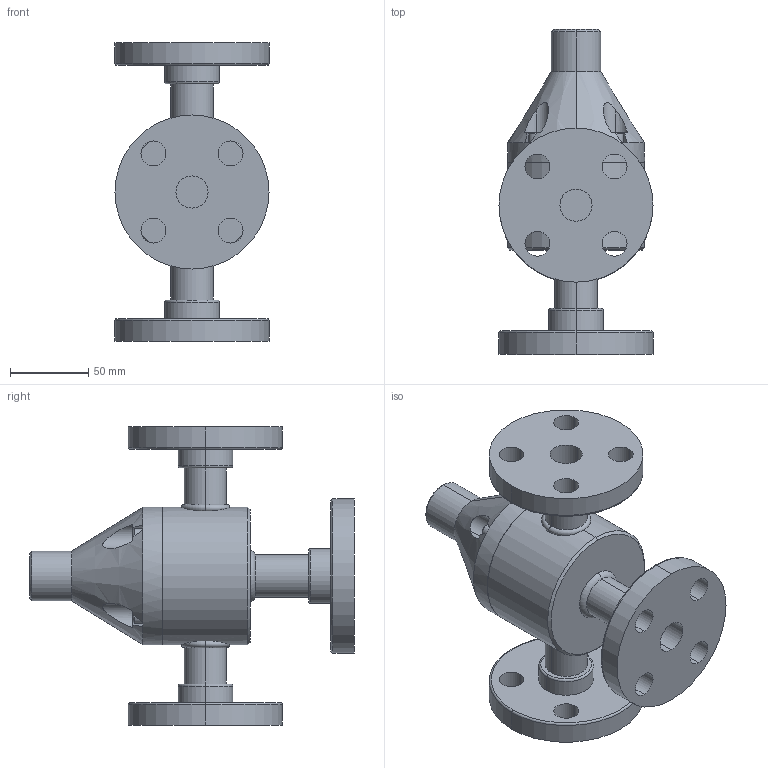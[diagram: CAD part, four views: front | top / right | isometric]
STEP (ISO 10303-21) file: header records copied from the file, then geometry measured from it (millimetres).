
FILE_DESCRIPTION (( 'STEP AP203' ), '1' );
FILE_NAME ('GPR0750-FLNG.STEP', '2016-02-12T10:17:42', ( '' ), ( '' ), 'SwSTEP 2.0', 'SolidWorks 2014', '' );
FILE_SCHEMA (( 'CONFIG_CONTROL_DESIGN' ));
Length unit declared in the file: inch
Products named in the file (2): GPR0750-FLNG
Bounding box: 98.42 x 207.65 x 190.5 mm (x, y, z)
Volume: 923959.7 mm3; surface area: 122608.4 mm2
Topology: 1 solids, 1 shells, 191 faces, 454 edges, 288 vertices
Faces by surface type: plane 81, cylinder 72, torus 20, cone 18
Entity records: 6161 total; most frequent: CARTESIAN_POINT 1389, DIRECTION 1028, ORIENTED_EDGE 908, EDGE_CURVE 454, AXIS2_PLACEMENT_3D 403, VERTEX_POINT 288, EDGE_LOOP 238, VECTOR 222
